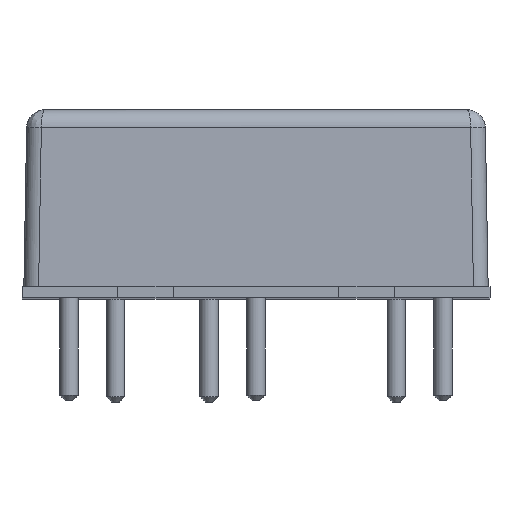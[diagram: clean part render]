
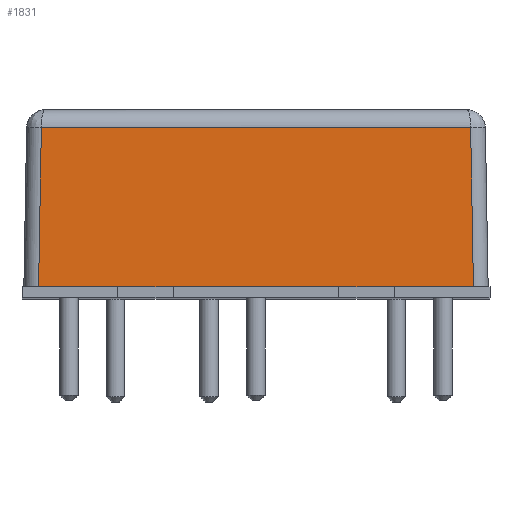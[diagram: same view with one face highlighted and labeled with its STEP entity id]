
A CAD part, top view. The second image highlights one B-rep face of the part: STEP entity #1831.
In plain terms, the highlighted planar face has unit normal (0, 0.018, 1).
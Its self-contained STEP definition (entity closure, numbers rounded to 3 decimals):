
#180 = CARTESIAN_POINT ( 'NONE',  ( -12.6, 0.6, 25.25 ) ) ;
#190 = DIRECTION ( 'NONE',  ( -1., 0., 0. ) ) ;
#200 = DIRECTION ( 'NONE',  ( -1., 0., 0. ) ) ;
#218 = ORIENTED_EDGE ( 'NONE', *, *, #2197, .T. ) ;
#249 = VERTEX_POINT ( 'NONE', #816 ) ;
#403 = DIRECTION ( 'NONE',  ( 0., -1., 0.017 ) ) ;
#461 = EDGE_CURVE ( 'NONE', #1484, #2191, #1695, .T. ) ;
#467 = VERTEX_POINT ( 'NONE', #854 ) ;
#544 = LINE ( 'NONE', #974, #2159 ) ;
#578 = ORIENTED_EDGE ( 'NONE', *, *, #2661, .F. ) ;
#603 = ORIENTED_EDGE ( 'NONE', *, *, #1384, .T. ) ;
#692 = LINE ( 'NONE', #1862, #1756 ) ;
#754 = VECTOR ( 'NONE', #2466, 1000. ) ;
#773 = ORIENTED_EDGE ( 'NONE', *, *, #461, .T. ) ;
#816 = CARTESIAN_POINT ( 'NONE',  ( 4.5, 0.6, 25.25 ) ) ;
#827 = CARTESIAN_POINT ( 'NONE',  ( -12.6, 9.217, 25.1 ) ) ;
#854 = CARTESIAN_POINT ( 'NONE',  ( 7.5, 0.6, 25.25 ) ) ;
#871 = AXIS2_PLACEMENT_3D ( 'NONE', #180, #1680, #403 ) ;
#887 = DIRECTION ( 'NONE',  ( -1., 0., 0. ) ) ;
#974 = CARTESIAN_POINT ( 'NONE',  ( -11.65, 9.217, 25.1 ) ) ;
#976 = CARTESIAN_POINT ( 'NONE',  ( -12.7, 0.6, 25.25 ) ) ;
#1062 = VERTEX_POINT ( 'NONE', #1541 ) ;
#1085 = VERTEX_POINT ( 'NONE', #1759 ) ;
#1147 = ORIENTED_EDGE ( 'NONE', *, *, #2674, .F. ) ;
#1168 = VECTOR ( 'NONE', #1426, 1000. ) ;
#1184 = DIRECTION ( 'NONE',  ( -0.017, -1., 0.017 ) ) ;
#1317 = LINE ( 'NONE', #2764, #2377 ) ;
#1373 = EDGE_LOOP ( 'NONE', ( #773, #1768, #603, #1147, #218, #2605, #2064, #578 ) ) ;
#1384 = EDGE_CURVE ( 'NONE', #249, #467, #1731, .T. ) ;
#1388 = LINE ( 'NONE', #976, #754 ) ;
#1426 = DIRECTION ( 'NONE',  ( 1., 0., 0. ) ) ;
#1437 = PLANE ( 'NONE',  #871 ) ;
#1446 = CARTESIAN_POINT ( 'NONE',  ( -4.5, 0.6, 25.25 ) ) ;
#1484 = VERTEX_POINT ( 'NONE', #2442 ) ;
#1541 = CARTESIAN_POINT ( 'NONE',  ( 11.65, 9.217, 25.1 ) ) ;
#1555 = FACE_OUTER_BOUND ( 'NONE', #1373, .T. ) ;
#1593 = EDGE_CURVE ( 'NONE', #249, #2191, #692, .T. ) ;
#1676 = CARTESIAN_POINT ( 'NONE',  ( 11.8, 0.6, 25.25 ) ) ;
#1680 = DIRECTION ( 'NONE',  ( 0., 0.017, 1. ) ) ;
#1694 = LINE ( 'NONE', #1676, #2030 ) ;
#1695 = LINE ( 'NONE', #1705, #2773 ) ;
#1705 = CARTESIAN_POINT ( 'NONE',  ( -12.6, 0.6, 25.25 ) ) ;
#1731 = LINE ( 'NONE', #2710, #1168 ) ;
#1756 = VECTOR ( 'NONE', #887, 1000. ) ;
#1759 = CARTESIAN_POINT ( 'NONE',  ( -11.65, 9.217, 25.1 ) ) ;
#1768 = ORIENTED_EDGE ( 'NONE', *, *, #1593, .F. ) ;
#1831 = ADVANCED_FACE ( 'NONE', ( #1555 ), #1437, .T. ) ;
#1862 = CARTESIAN_POINT ( 'NONE',  ( -12.7, 0.6, 25.25 ) ) ;
#1893 = DIRECTION ( 'NONE',  ( -0.017, 1., -0.017 ) ) ;
#1907 = CARTESIAN_POINT ( 'NONE',  ( -11.8, 0.6, 25.25 ) ) ;
#1914 = VECTOR ( 'NONE', #190, 1000. ) ;
#1942 = EDGE_CURVE ( 'NONE', #1085, #2249, #544, .T. ) ;
#2030 = VECTOR ( 'NONE', #1893, 1000. ) ;
#2064 = ORIENTED_EDGE ( 'NONE', *, *, #1942, .T. ) ;
#2159 = VECTOR ( 'NONE', #1184, 1000. ) ;
#2191 = VERTEX_POINT ( 'NONE', #1446 ) ;
#2197 = EDGE_CURVE ( 'NONE', #2565, #1062, #1694, .T. ) ;
#2220 = EDGE_CURVE ( 'NONE', #1062, #1085, #2531, .T. ) ;
#2249 = VERTEX_POINT ( 'NONE', #1907 ) ;
#2326 = DIRECTION ( 'NONE',  ( 1., 0., 0. ) ) ;
#2377 = VECTOR ( 'NONE', #200, 1000. ) ;
#2442 = CARTESIAN_POINT ( 'NONE',  ( -7.5, 0.6, 25.25 ) ) ;
#2466 = DIRECTION ( 'NONE',  ( -1., 0., 0. ) ) ;
#2531 = LINE ( 'NONE', #827, #1914 ) ;
#2565 = VERTEX_POINT ( 'NONE', #2636 ) ;
#2605 = ORIENTED_EDGE ( 'NONE', *, *, #2220, .T. ) ;
#2636 = CARTESIAN_POINT ( 'NONE',  ( 11.8, 0.6, 25.25 ) ) ;
#2661 = EDGE_CURVE ( 'NONE', #1484, #2249, #1388, .T. ) ;
#2674 = EDGE_CURVE ( 'NONE', #2565, #467, #1317, .T. ) ;
#2710 = CARTESIAN_POINT ( 'NONE',  ( -12.6, 0.6, 25.25 ) ) ;
#2764 = CARTESIAN_POINT ( 'NONE',  ( -12.7, 0.6, 25.25 ) ) ;
#2773 = VECTOR ( 'NONE', #2326, 1000. ) ;
